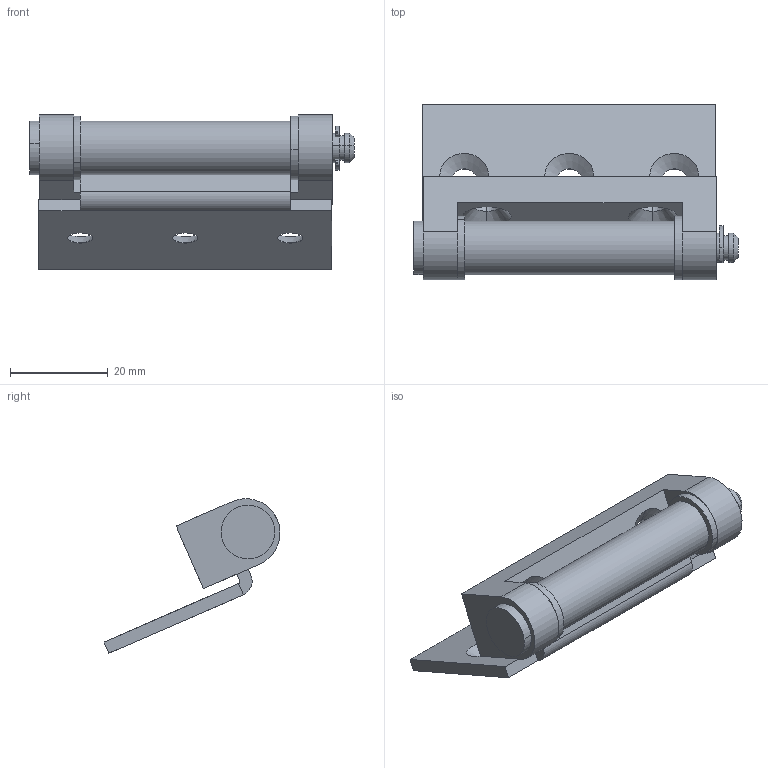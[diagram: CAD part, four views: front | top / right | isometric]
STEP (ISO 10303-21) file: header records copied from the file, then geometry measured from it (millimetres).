
FILE_DESCRIPTION (( 'STEP AP214' ), '1' );
FILE_NAME ('3.ST42.001.STEP', '2010-02-09T15:14:40', ( '£ukaszC' ), ( '' ), 'SwSTEP 2.0', 'SolidWorks 2008', '' );
FILE_SCHEMA (( 'AUTOMOTIVE_DESIGN' ));
Length unit declared in the file: millimetre
Products named in the file (6): 3B.St42.00.00.01_Domyœlna; 3B.St42.00.00.02_Domyœlna; 3B.St42.00.00.03_Domyœlna; Zabezpieczenie_Domyœlna; 3.ST42.001; 3B.St42.00.00.04_Domyœlna
Assembly tree (6 placements, depth 2):
  3.ST42.001
    3B.St42.00.00.04_Domyœlna  x2
    3B.St42.00.00.03_Domyœlna
    3B.St42.00.00.02_Domyœlna
    Zabezpieczenie_Domyœlna
    3B.St42.00.00.01_Domyœlna
Bounding box: 66.5 x 35.99 x 31.6 mm (x, y, z)
Volume: 16738.2 mm3; surface area: 13008.3 mm2
Topology: 6 solids, 6 shells, 109 faces, 274 edges, 176 vertices
Faces by surface type: plane 42, cylinder 37, bspline 18, cone 12
Entity records: 3319 total; most frequent: CARTESIAN_POINT 764, ORIENTED_EDGE 508, DIRECTION 484, EDGE_CURVE 254, AXIS2_PLACEMENT_3D 172, VERTEX_POINT 164, LINE 140, VECTOR 140
